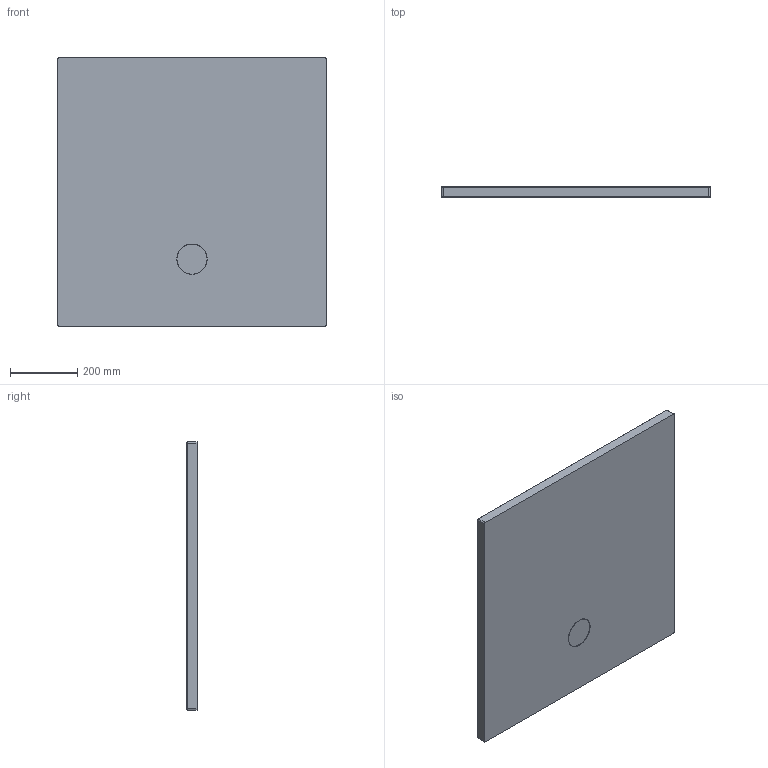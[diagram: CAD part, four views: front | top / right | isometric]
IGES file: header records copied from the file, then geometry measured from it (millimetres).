
Start section: SolidWorks IGES file using analytic representation for surfaces
Global section: file name: D:\Users\M.Szymanski\Desktop\Brodziki\Nias\B_M_NIAS_80x80x1,5.IGS; native system: SolidWorks 2011; preprocessor: SolidWorks 2011; author: M.Szymanski; date: 180222.141122; units: millimetre
Bounding box: 800 x 30 x 800 mm (x, y, z)
Surface area: 1397882.9 mm2 (no closed solid volume)
Topology: 0 solids, 0 shells, 45 faces, 643 edges, 642 vertices
Faces by surface type: bspline 25, revolution 20
